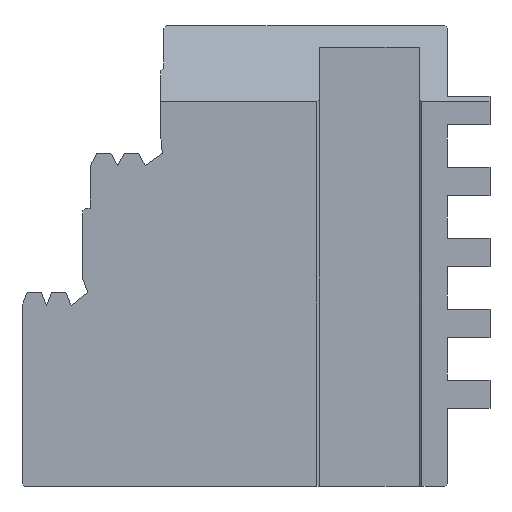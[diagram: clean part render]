
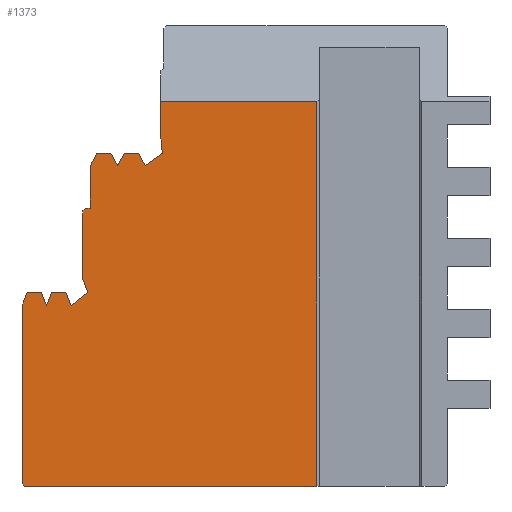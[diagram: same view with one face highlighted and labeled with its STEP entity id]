
A CAD part, left-side view. The second image highlights one B-rep face of the part: STEP entity #1373.
In plain terms, the highlighted planar face has unit normal (-1, 0, 0).
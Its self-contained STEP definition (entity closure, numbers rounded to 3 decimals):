
#27=FACE_OUTER_BOUND('',#96,.T.);
#96=EDGE_LOOP('',(#995,#996,#997,#998,#999,#1000,#1001,#1002,#1003,#1004,
#1005,#1006,#1007,#1008,#1009,#1010,#1011,#1012,#1013,#1014,#1015,#1016,
#1017,#1018,#1019,#1020,#1021,#1022));
#162=LINE('',#1879,#363);
#212=LINE('',#1980,#413);
#224=LINE('',#2001,#425);
#234=LINE('',#2021,#435);
#235=LINE('',#2023,#436);
#236=LINE('',#2025,#437);
#237=LINE('',#2027,#438);
#238=LINE('',#2029,#439);
#239=LINE('',#2031,#440);
#240=LINE('',#2033,#441);
#241=LINE('',#2035,#442);
#242=LINE('',#2037,#443);
#243=LINE('',#2039,#444);
#244=LINE('',#2041,#445);
#245=LINE('',#2043,#446);
#246=LINE('',#2045,#447);
#247=LINE('',#2047,#448);
#248=LINE('',#2049,#449);
#249=LINE('',#2051,#450);
#250=LINE('',#2053,#451);
#251=LINE('',#2055,#452);
#252=LINE('',#2057,#453);
#253=LINE('',#2059,#454);
#254=LINE('',#2061,#455);
#255=LINE('',#2063,#456);
#256=LINE('',#2065,#457);
#257=LINE('',#2067,#458);
#258=LINE('',#2068,#459);
#363=VECTOR('',#1529,10.);
#413=VECTOR('',#1589,10.);
#425=VECTOR('',#1613,10.);
#435=VECTOR('',#1625,10.);
#436=VECTOR('',#1626,10.);
#437=VECTOR('',#1627,10.);
#438=VECTOR('',#1628,10.);
#439=VECTOR('',#1629,10.);
#440=VECTOR('',#1630,10.);
#441=VECTOR('',#1631,10.);
#442=VECTOR('',#1632,10.);
#443=VECTOR('',#1633,10.);
#444=VECTOR('',#1634,10.);
#445=VECTOR('',#1635,10.);
#446=VECTOR('',#1636,10.);
#447=VECTOR('',#1637,10.);
#448=VECTOR('',#1638,10.);
#449=VECTOR('',#1639,10.);
#450=VECTOR('',#1640,10.);
#451=VECTOR('',#1641,10.);
#452=VECTOR('',#1642,10.);
#453=VECTOR('',#1643,10.);
#454=VECTOR('',#1644,10.);
#455=VECTOR('',#1645,10.);
#456=VECTOR('',#1646,10.);
#457=VECTOR('',#1647,10.);
#458=VECTOR('',#1648,10.);
#459=VECTOR('',#1649,10.);
#564=VERTEX_POINT('',#1876);
#565=VERTEX_POINT('',#1878);
#611=VERTEX_POINT('',#1979);
#614=VERTEX_POINT('',#2000);
#623=VERTEX_POINT('',#2020);
#624=VERTEX_POINT('',#2022);
#625=VERTEX_POINT('',#2024);
#626=VERTEX_POINT('',#2026);
#627=VERTEX_POINT('',#2028);
#628=VERTEX_POINT('',#2030);
#629=VERTEX_POINT('',#2032);
#630=VERTEX_POINT('',#2034);
#631=VERTEX_POINT('',#2036);
#632=VERTEX_POINT('',#2038);
#633=VERTEX_POINT('',#2040);
#634=VERTEX_POINT('',#2042);
#635=VERTEX_POINT('',#2044);
#636=VERTEX_POINT('',#2046);
#637=VERTEX_POINT('',#2048);
#638=VERTEX_POINT('',#2050);
#639=VERTEX_POINT('',#2052);
#640=VERTEX_POINT('',#2054);
#641=VERTEX_POINT('',#2056);
#642=VERTEX_POINT('',#2058);
#643=VERTEX_POINT('',#2060);
#644=VERTEX_POINT('',#2062);
#645=VERTEX_POINT('',#2064);
#646=VERTEX_POINT('',#2066);
#698=EDGE_CURVE('',#565,#564,#162,.T.);
#748=EDGE_CURVE('',#565,#611,#212,.T.);
#760=EDGE_CURVE('',#614,#611,#224,.T.);
#770=EDGE_CURVE('',#564,#623,#234,.T.);
#771=EDGE_CURVE('',#623,#624,#235,.T.);
#772=EDGE_CURVE('',#624,#625,#236,.T.);
#773=EDGE_CURVE('',#625,#626,#237,.T.);
#774=EDGE_CURVE('',#626,#627,#238,.T.);
#775=EDGE_CURVE('',#627,#628,#239,.T.);
#776=EDGE_CURVE('',#628,#629,#240,.T.);
#777=EDGE_CURVE('',#629,#630,#241,.T.);
#778=EDGE_CURVE('',#630,#631,#242,.T.);
#779=EDGE_CURVE('',#632,#631,#243,.T.);
#780=EDGE_CURVE('',#632,#633,#244,.T.);
#781=EDGE_CURVE('',#633,#634,#245,.T.);
#782=EDGE_CURVE('',#635,#634,#246,.T.);
#783=EDGE_CURVE('',#635,#636,#247,.T.);
#784=EDGE_CURVE('',#636,#637,#248,.T.);
#785=EDGE_CURVE('',#637,#638,#249,.T.);
#786=EDGE_CURVE('',#638,#639,#250,.T.);
#787=EDGE_CURVE('',#639,#640,#251,.T.);
#788=EDGE_CURVE('',#640,#641,#252,.T.);
#789=EDGE_CURVE('',#641,#642,#253,.T.);
#790=EDGE_CURVE('',#642,#643,#254,.T.);
#791=EDGE_CURVE('',#643,#644,#255,.T.);
#792=EDGE_CURVE('',#645,#644,#256,.T.);
#793=EDGE_CURVE('',#645,#646,#257,.T.);
#794=EDGE_CURVE('',#614,#646,#258,.T.);
#995=ORIENTED_EDGE('',*,*,#698,.T.);
#996=ORIENTED_EDGE('',*,*,#770,.T.);
#997=ORIENTED_EDGE('',*,*,#771,.T.);
#998=ORIENTED_EDGE('',*,*,#772,.T.);
#999=ORIENTED_EDGE('',*,*,#773,.T.);
#1000=ORIENTED_EDGE('',*,*,#774,.T.);
#1001=ORIENTED_EDGE('',*,*,#775,.T.);
#1002=ORIENTED_EDGE('',*,*,#776,.T.);
#1003=ORIENTED_EDGE('',*,*,#777,.T.);
#1004=ORIENTED_EDGE('',*,*,#778,.T.);
#1005=ORIENTED_EDGE('',*,*,#779,.F.);
#1006=ORIENTED_EDGE('',*,*,#780,.T.);
#1007=ORIENTED_EDGE('',*,*,#781,.T.);
#1008=ORIENTED_EDGE('',*,*,#782,.F.);
#1009=ORIENTED_EDGE('',*,*,#783,.T.);
#1010=ORIENTED_EDGE('',*,*,#784,.T.);
#1011=ORIENTED_EDGE('',*,*,#785,.T.);
#1012=ORIENTED_EDGE('',*,*,#786,.T.);
#1013=ORIENTED_EDGE('',*,*,#787,.T.);
#1014=ORIENTED_EDGE('',*,*,#788,.T.);
#1015=ORIENTED_EDGE('',*,*,#789,.T.);
#1016=ORIENTED_EDGE('',*,*,#790,.T.);
#1017=ORIENTED_EDGE('',*,*,#791,.T.);
#1018=ORIENTED_EDGE('',*,*,#792,.F.);
#1019=ORIENTED_EDGE('',*,*,#793,.T.);
#1020=ORIENTED_EDGE('',*,*,#794,.F.);
#1021=ORIENTED_EDGE('',*,*,#760,.T.);
#1022=ORIENTED_EDGE('',*,*,#748,.F.);
#1304=PLANE('',#1459);
#1373=ADVANCED_FACE('',(#27),#1304,.T.);
#1459=AXIS2_PLACEMENT_3D('',#2019,#1623,#1624);
#1529=DIRECTION('',(0.,1.,0.));
#1589=DIRECTION('',(0.,0.,-1.));
#1613=DIRECTION('',(0.,-1.,0.));
#1623=DIRECTION('center_axis',(-1.,0.,0.));
#1624=DIRECTION('ref_axis',(0.,0.,1.));
#1625=DIRECTION('',(0.,0.,-1.));
#1626=DIRECTION('',(0.,-0.1,-0.995));
#1627=DIRECTION('',(0.,0.809,-0.588));
#1628=DIRECTION('',(0.,0.472,0.882));
#1629=DIRECTION('',(0.,1.,0.));
#1630=DIRECTION('',(0.,0.472,-0.882));
#1631=DIRECTION('',(0.,0.472,0.882));
#1632=DIRECTION('',(0.,1.,0.));
#1633=DIRECTION('',(0.,0.472,-0.882));
#1634=DIRECTION('',(0.,-0.243,0.97));
#1635=DIRECTION('',(0.,0.,-1.));
#1636=DIRECTION('',(0.,1.,0.));
#1637=DIRECTION('',(0.,-0.707,0.707));
#1638=DIRECTION('',(0.,0.,-1.));
#1639=DIRECTION('',(0.,-0.345,-0.939));
#1640=DIRECTION('',(0.,0.785,-0.62));
#1641=DIRECTION('',(0.,0.367,0.93));
#1642=DIRECTION('',(0.,1.,0.));
#1643=DIRECTION('',(0.,0.367,-0.93));
#1644=DIRECTION('',(0.,0.367,0.93));
#1645=DIRECTION('',(0.,1.,0.));
#1646=DIRECTION('',(0.,0.367,-0.93));
#1647=DIRECTION('',(0.,-0.187,0.982));
#1648=DIRECTION('',(0.,0.,-1.));
#1649=DIRECTION('',(0.,0.707,0.707));
#1876=CARTESIAN_POINT('',(-6.,20.2,27.144));
#1878=CARTESIAN_POINT('',(-6.,9.2,27.144));
#1879=CARTESIAN_POINT('',(-6.,15.55,27.144));
#1979=CARTESIAN_POINT('',(-6.,9.2,0.));
#1980=CARTESIAN_POINT('',(-6.,9.2,7.736));
#2000=CARTESIAN_POINT('',(-6.,29.8,0.));
#2001=CARTESIAN_POINT('',(-6.,0.,0.));
#2019=CARTESIAN_POINT('Origin',(-6.,11.099,15.471));
#2020=CARTESIAN_POINT('',(-6.,20.2,24.5));
#2021=CARTESIAN_POINT('',(-6.,20.2,24.5));
#2022=CARTESIAN_POINT('',(-6.,20.1,23.505));
#2023=CARTESIAN_POINT('',(-6.,20.1,23.505));
#2024=CARTESIAN_POINT('',(-6.,21.313,22.623));
#2025=CARTESIAN_POINT('',(-6.,21.313,22.623));
#2026=CARTESIAN_POINT('',(-6.,21.785,23.505));
#2027=CARTESIAN_POINT('',(-6.,21.785,23.505));
#2028=CARTESIAN_POINT('',(-6.,22.785,23.505));
#2029=CARTESIAN_POINT('',(-6.,22.785,23.505));
#2030=CARTESIAN_POINT('',(-6.,23.257,22.623));
#2031=CARTESIAN_POINT('',(-6.,23.257,22.623));
#2032=CARTESIAN_POINT('',(-6.,23.728,23.505));
#2033=CARTESIAN_POINT('',(-6.,23.728,23.505));
#2034=CARTESIAN_POINT('',(-6.,24.728,23.505));
#2035=CARTESIAN_POINT('',(-6.,24.728,23.505));
#2036=CARTESIAN_POINT('',(-6.,25.106,22.8));
#2037=CARTESIAN_POINT('',(-6.,25.2,22.623));
#2038=CARTESIAN_POINT('',(-6.,25.2,22.423));
#2039=CARTESIAN_POINT('',(-6.,25.579,20.909));
#2040=CARTESIAN_POINT('',(-6.,25.2,19.623));
#2041=CARTESIAN_POINT('',(-6.,25.2,19.623));
#2042=CARTESIAN_POINT('',(-6.,25.5,19.623));
#2043=CARTESIAN_POINT('',(-6.,25.7,19.623));
#2044=CARTESIAN_POINT('',(-6.,25.7,19.423));
#2045=CARTESIAN_POINT('',(-6.,22.988,22.135));
#2046=CARTESIAN_POINT('',(-6.,25.7,14.623));
#2047=CARTESIAN_POINT('',(-6.,25.7,14.623));
#2048=CARTESIAN_POINT('',(-6.,25.355,13.685));
#2049=CARTESIAN_POINT('',(-6.,25.355,13.685));
#2050=CARTESIAN_POINT('',(-6.,26.532,12.755));
#2051=CARTESIAN_POINT('',(-6.,26.532,12.755));
#2052=CARTESIAN_POINT('',(-6.,26.899,13.685));
#2053=CARTESIAN_POINT('',(-6.,26.899,13.685));
#2054=CARTESIAN_POINT('',(-6.,27.899,13.685));
#2055=CARTESIAN_POINT('',(-6.,27.899,13.685));
#2056=CARTESIAN_POINT('',(-6.,28.266,12.755));
#2057=CARTESIAN_POINT('',(-6.,28.266,12.755));
#2058=CARTESIAN_POINT('',(-6.,28.633,13.685));
#2059=CARTESIAN_POINT('',(-6.,28.633,13.685));
#2060=CARTESIAN_POINT('',(-6.,29.633,13.685));
#2061=CARTESIAN_POINT('',(-6.,29.633,13.685));
#2062=CARTESIAN_POINT('',(-6.,29.927,12.941));
#2063=CARTESIAN_POINT('',(-6.,30.,12.755));
#2064=CARTESIAN_POINT('',(-6.,30.,12.555));
#2065=CARTESIAN_POINT('',(-6.,29.384,15.793));
#2066=CARTESIAN_POINT('',(-6.,30.,0.2));
#2067=CARTESIAN_POINT('',(-6.,30.,0.));
#2068=CARTESIAN_POINT('',(-6.,29.043,-0.757));
